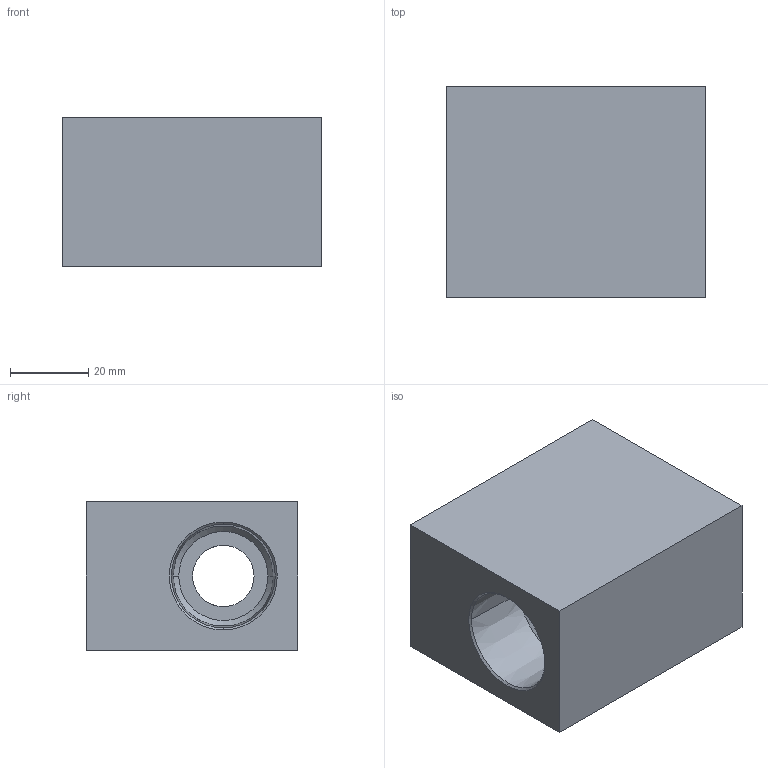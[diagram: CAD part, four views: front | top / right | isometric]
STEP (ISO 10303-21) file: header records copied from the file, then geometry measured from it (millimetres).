
FILE_DESCRIPTION (( 'STEP AP203' ), '1' );
FILE_NAME ('FTNTS12.STEP', '2026-06-26T01:41:03', ( 'USER' ), ( '' ), 'SwSTEP 2.0', 'SolidWorks 2023', '' );
FILE_SCHEMA (( 'CONFIG_CONTROL_DESIGN' ));
Length unit declared in the file: millimetre
Products named in the file (1): FTNTS12
Bounding box: 66 x 54 x 38 mm (x, y, z)
Volume: 96461.7 mm3; surface area: 21776.6 mm2
Topology: 1 solids, 1 shells, 37 faces, 87 edges, 54 vertices
Faces by surface type: cone 18, cylinder 10, plane 9
Entity records: 1152 total; most frequent: DIRECTION 201, CARTESIAN_POINT 191, ORIENTED_EDGE 174, EDGE_CURVE 87, AXIS2_PLACEMENT_3D 80, VERTEX_POINT 54, EDGE_LOOP 43, CIRCLE 42
